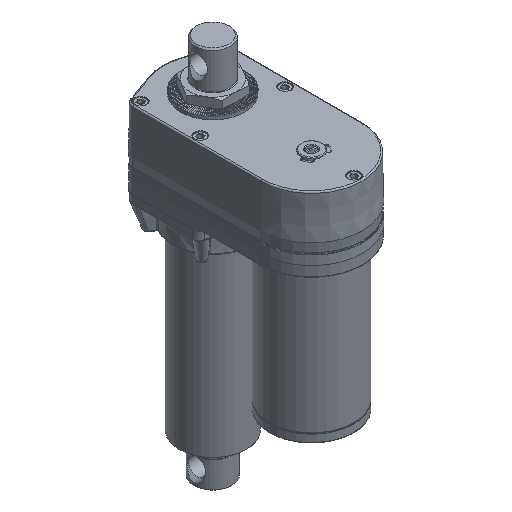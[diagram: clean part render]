
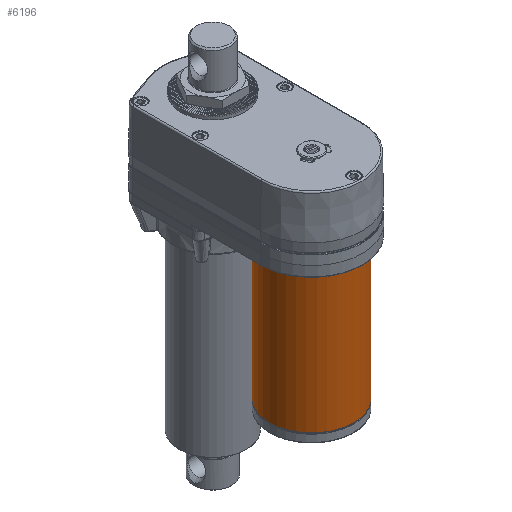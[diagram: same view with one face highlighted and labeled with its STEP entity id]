
A CAD part, isometric view. The second image highlights one B-rep face of the part: STEP entity #6196.
In plain terms, the highlighted cylindrical face has radius 31.75 mm (diameter 63.5 mm), a full revolution.
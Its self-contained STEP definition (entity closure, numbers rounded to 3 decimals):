
#768 = AXIS2_PLACEMENT_3D ( 'NONE', #14088, #13988, #13642 ) ;
#1329 = FACE_OUTER_BOUND ( 'NONE', #15433, .T. ) ;
#4917 = EDGE_CURVE ( 'NONE', #12735, #12735, #9571, .T. ) ;
#6196 = ADVANCED_FACE ( 'NONE', ( #1329, #26264 ), #12923, .T. ) ;
#8850 = CARTESIAN_POINT ( 'NONE',  ( 31.75, -74.54, -121.95 ) ) ;
#9380 = ORIENTED_EDGE ( 'NONE', *, *, #4917, .T. ) ;
#9571 = CIRCLE ( 'NONE', #768, 31.75 ) ;
#10298 = CIRCLE ( 'NONE', #26522, 31.75 ) ;
#11580 = DIRECTION ( 'NONE',  ( 0., 0., -1. ) ) ;
#12735 = VERTEX_POINT ( 'NONE', #8850 ) ;
#12923 = CYLINDRICAL_SURFACE ( 'NONE', #27583, 31.75 ) ;
#13642 = DIRECTION ( 'NONE',  ( 1., 0., 0. ) ) ;
#13988 = DIRECTION ( 'NONE',  ( 0., 0., 1. ) ) ;
#14088 = CARTESIAN_POINT ( 'NONE',  ( 0., -74.54, -121.95 ) ) ;
#15112 = EDGE_LOOP ( 'NONE', ( #24748 ) ) ;
#15433 = EDGE_LOOP ( 'NONE', ( #9380 ) ) ;
#17719 = CARTESIAN_POINT ( 'NONE',  ( 0., -74.54, -7.8 ) ) ;
#18681 = CARTESIAN_POINT ( 'NONE',  ( 31.75, -74.54, -15.8 ) ) ;
#24236 = VERTEX_POINT ( 'NONE', #18681 ) ;
#24748 = ORIENTED_EDGE ( 'NONE', *, *, #27072, .T. ) ;
#25771 = CARTESIAN_POINT ( 'NONE',  ( 0., -74.54, -15.8 ) ) ;
#26264 = FACE_OUTER_BOUND ( 'NONE', #15112, .T. ) ;
#26522 = AXIS2_PLACEMENT_3D ( 'NONE', #25771, #11580, #28128 ) ;
#27072 = EDGE_CURVE ( 'NONE', #24236, #24236, #10298, .T. ) ;
#27583 = AXIS2_PLACEMENT_3D ( 'NONE', #17719, #30328, #29151 ) ;
#28128 = DIRECTION ( 'NONE',  ( 1., 0., 0. ) ) ;
#29151 = DIRECTION ( 'NONE',  ( 1., 0., 0. ) ) ;
#30328 = DIRECTION ( 'NONE',  ( 0., 0., 1. ) ) ;
